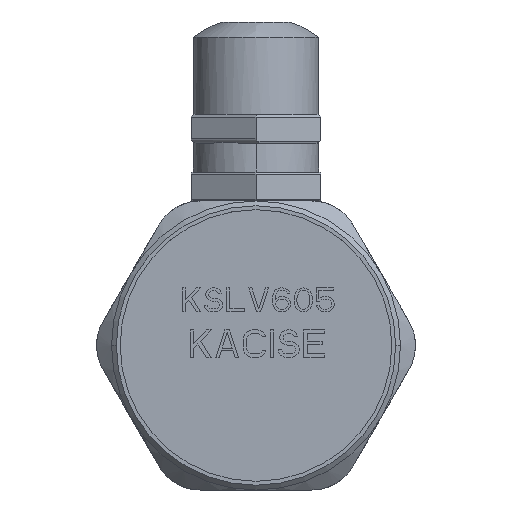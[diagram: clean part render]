
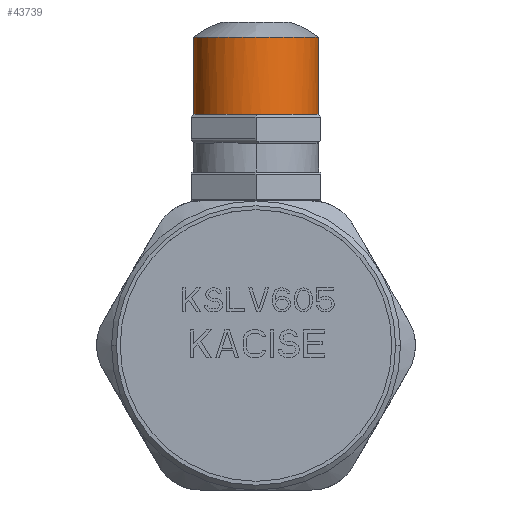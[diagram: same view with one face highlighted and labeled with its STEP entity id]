
A CAD part, front view. The second image highlights one B-rep face of the part: STEP entity #43739.
In plain terms, the highlighted cylindrical face has radius 6.5 mm (diameter 13 mm), a partial arc.
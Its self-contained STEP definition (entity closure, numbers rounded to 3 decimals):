
#41462=CARTESIAN_POINT('',(-6.5,0.,0.007));
#41494=CARTESIAN_POINT('',(0.,0.,0.));
#41495=DIRECTION('',(0.,0.,-1.));
#41496=DIRECTION('',(-0.99,0.139,0.));
#41497=AXIS2_PLACEMENT_3D('',#41494,#41495,#41496);
#41499=CARTESIAN_POINT('',(-6.436,0.906,0.));
#41500=CARTESIAN_POINT('',(-6.457,0.76,0.));
#41501=CARTESIAN_POINT('',(-6.489,0.462,
0.004));
#41502=CARTESIAN_POINT('',(-6.5,0.155,0.007));
#41503=CARTESIAN_POINT('',(-6.5,0.,0.007));
#41505=DIRECTION('',(0.,0.,-1.));
#41506=VECTOR('',#41505,8.007);
#41507=CARTESIAN_POINT('',(-6.5,0.,0.007));
#41508=LINE('',#41507,#41506);
#41509=DIRECTION('',(0.,0.,-1.));
#41510=VECTOR('',#41509,8.007);
#41511=CARTESIAN_POINT('',(6.5,0.,0.007));
#41512=LINE('',#41511,#41510);
#41513=CARTESIAN_POINT('',(6.5,0.,0.007));
#41514=CARTESIAN_POINT('',(6.5,0.156,0.007));
#41515=CARTESIAN_POINT('',(6.489,0.463,
0.004));
#41516=CARTESIAN_POINT('',(6.457,0.76,0.));
#41517=CARTESIAN_POINT('',(6.436,0.906,0.));
#41519=CARTESIAN_POINT('',(0.,0.,0.));
#41520=DIRECTION('',(0.,0.,-1.));
#41521=DIRECTION('',(0.616,0.788,0.));
#41522=AXIS2_PLACEMENT_3D('',#41519,#41520,#41521);
#41524=CARTESIAN_POINT('',(0.,0.,0.));
#41525=DIRECTION('',(0.,0.,-1.));
#41526=DIRECTION('',(-0.374,0.927,0.));
#41527=AXIS2_PLACEMENT_3D('',#41524,#41525,#41526);
#41529=CARTESIAN_POINT('',(-4.003,5.121,0.));
#41530=CARTESIAN_POINT('',(-3.846,5.244,0.));
#41531=CARTESIAN_POINT('',(-3.521,5.475,
0.007));
#41532=CARTESIAN_POINT('',(-2.981,5.787,
0.007));
#41533=CARTESIAN_POINT('',(-2.618,5.953,0.));
#41534=CARTESIAN_POINT('',(-2.433,6.027,0.));
#41595=CARTESIAN_POINT('',(2.433,6.027,0.));
#41596=CARTESIAN_POINT('',(2.618,5.953,0.));
#41597=CARTESIAN_POINT('',(2.981,5.787,
0.007));
#41598=CARTESIAN_POINT('',(3.521,5.475,
0.007));
#41599=CARTESIAN_POINT('',(3.846,5.244,0.));
#41600=CARTESIAN_POINT('',(4.003,5.121,0.));
#43340=CARTESIAN_POINT('',(0.,0.,-8.));
#43341=DIRECTION('',(0.,0.,1.));
#43342=DIRECTION('',(1.,0.,0.));
#43343=AXIS2_PLACEMENT_3D('',#43340,#43341,#43342);
#43430=CARTESIAN_POINT('',(6.5,0.,-8.));
#43431=CARTESIAN_POINT('',(-6.5,0.,-8.));
#43432=VERTEX_POINT('',#43430);
#43433=VERTEX_POINT('',#43431);
#43434=CARTESIAN_POINT('',(-2.433,6.027,0.));
#43436=VERTEX_POINT('',#43434);
#43438=CARTESIAN_POINT('',(2.433,6.027,0.));
#43439=VERTEX_POINT('',#43438);
#43440=CARTESIAN_POINT('',(4.003,5.121,0.));
#43442=VERTEX_POINT('',#43440);
#43444=CARTESIAN_POINT('',(6.436,0.906,0.));
#43445=VERTEX_POINT('',#43444);
#43446=VERTEX_POINT('',#41513);
#43464=VERTEX_POINT('',#41462);
#43465=VERTEX_POINT('',#41499);
#43468=CARTESIAN_POINT('',(-4.003,5.121,0.));
#43469=VERTEX_POINT('',#43468);
#43715=CARTESIAN_POINT('',(0.,0.,0.));
#43716=DIRECTION('',(0.,0.,-1.));
#43717=DIRECTION('',(1.,0.,0.));
#43718=AXIS2_PLACEMENT_3D('',#43715,#43716,#43717);
#43719=CYLINDRICAL_SURFACE('',#43718,6.5);
#43721=ORIENTED_EDGE('',*,*,#43720,.F.);
#43723=ORIENTED_EDGE('',*,*,#43722,.F.);
#43725=ORIENTED_EDGE('',*,*,#43724,.T.);
#43726=ORIENTED_EDGE('',*,*,#43677,.T.);
#43728=ORIENTED_EDGE('',*,*,#43727,.F.);
#43729=ORIENTED_EDGE('',*,*,#43673,.F.);
#43730=ORIENTED_EDGE('',*,*,#43699,.T.);
#43732=ORIENTED_EDGE('',*,*,#43731,.F.);
#43734=ORIENTED_EDGE('',*,*,#43733,.F.);
#43736=ORIENTED_EDGE('',*,*,#43735,.F.);
#43737=EDGE_LOOP('',(#43721,#43723,#43725,#43726,#43728,#43729,#43730,#43732,
#43734,#43736));
#43738=FACE_OUTER_BOUND('',#43737,.F.);
#43739=ADVANCED_FACE('',(#43738),#43719,.T.);
#41498=CIRCLE('',#41497,6.5);
#41504=B_SPLINE_CURVE_WITH_KNOTS('',3,(#41499,#41500,#41501,#41502,#41503),
.UNSPECIFIED.,.F.,.F.,(4,1,4),(0.,0.5,1.),.UNSPECIFIED.);
#41518=B_SPLINE_CURVE_WITH_KNOTS('',3,(#41513,#41514,#41515,#41516,#41517),
.UNSPECIFIED.,.F.,.F.,(4,1,4),(0.,0.5,1.),.UNSPECIFIED.);
#41523=CIRCLE('',#41522,6.5);
#41528=CIRCLE('',#41527,6.5);
#41535=B_SPLINE_CURVE_WITH_KNOTS('',3,(#41529,#41530,#41531,#41532,#41533,
#41534),.UNSPECIFIED.,.F.,.F.,(4,1,1,4),(0.,0.333,
0.667,1.),.UNSPECIFIED.);
#41601=B_SPLINE_CURVE_WITH_KNOTS('',3,(#41595,#41596,#41597,#41598,#41599,
#41600),.UNSPECIFIED.,.F.,.F.,(4,1,1,4),(0.,0.333,
0.667,1.),.UNSPECIFIED.);
#43344=CIRCLE('',#43343,6.5);
#43673=EDGE_CURVE('',#43446,#43432,#41512,.T.);
#43677=EDGE_CURVE('',#43464,#43433,#41508,.T.);
#43699=EDGE_CURVE('',#43446,#43445,#41518,.T.);
#43720=EDGE_CURVE('',#43469,#43436,#41535,.T.);
#43722=EDGE_CURVE('',#43465,#43469,#41498,.T.);
#43724=EDGE_CURVE('',#43465,#43464,#41504,.T.);
#43727=EDGE_CURVE('',#43432,#43433,#43344,.T.);
#43731=EDGE_CURVE('',#43442,#43445,#41523,.T.);
#43733=EDGE_CURVE('',#43439,#43442,#41601,.T.);
#43735=EDGE_CURVE('',#43436,#43439,#41528,.T.);
